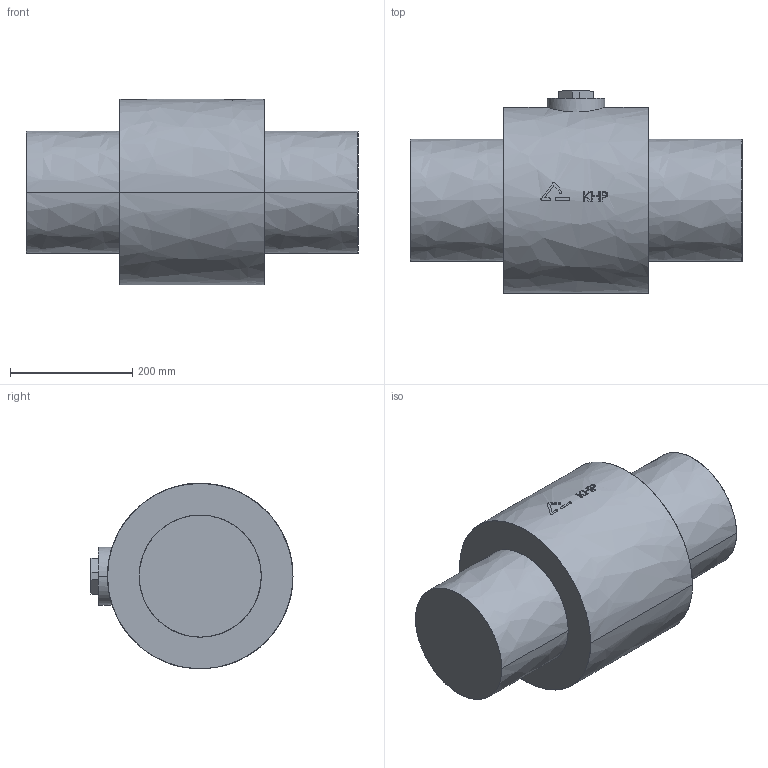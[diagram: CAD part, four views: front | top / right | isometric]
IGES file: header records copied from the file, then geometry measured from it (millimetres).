
Start section:  PTC IGES file: khp_d200.igs
Global section: file name: khp_d200.igs; native system: Pro/ENGINEER by Parametric Technology Corporation; preprocessor: 2006140; author: muellerc; organization: Unknown; date: 20060803.080713; units: millimetre
Bounding box: 544 x 331 x 304.3 mm (x, y, z)
Surface area: 573363.4 mm2 (no closed solid volume)
Topology: 0 solids, 0 shells, 95 faces, 545 edges, 548 vertices
Faces by surface type: bspline 95
